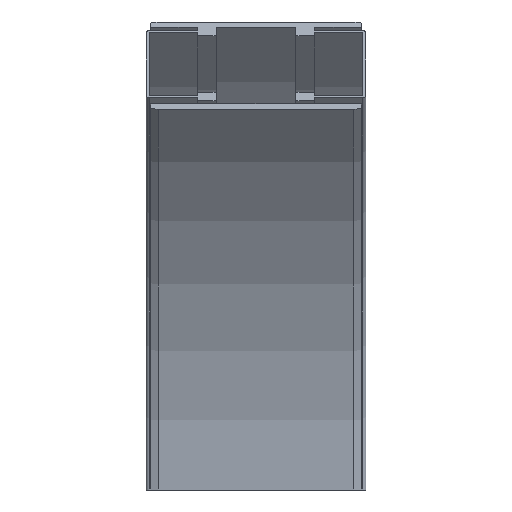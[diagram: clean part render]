
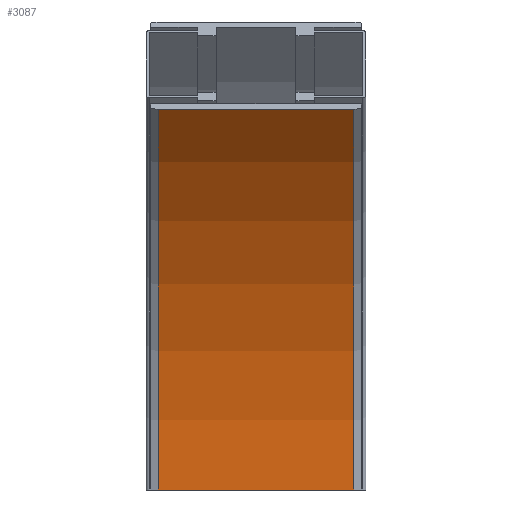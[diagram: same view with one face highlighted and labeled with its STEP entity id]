
A CAD part, front view. The second image highlights one B-rep face of the part: STEP entity #3087.
In plain terms, the highlighted cylindrical face has radius 357.5 mm (diameter 715 mm), a partial arc.
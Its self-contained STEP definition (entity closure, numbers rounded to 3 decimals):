
#3029=CARTESIAN_POINT('',(104.,-178.709,252.791));
#3030=VERTEX_POINT('',#3029);
#3037=CARTESIAN_POINT('',(104.,-74.,0.0));
#3038=VERTEX_POINT('',#3037);
#3039=CARTESIAN_POINT('',(104.,-431.5,0.));
#3040=DIRECTION('',(1.0,0.0,0.0));
#3041=DIRECTION('',(0.0,1.0,0.0));
#3042=AXIS2_PLACEMENT_3D('',#3039,#3040,#3041);
#3043=CIRCLE('',#3042,357.5);
#3044=EDGE_CURVE('',#3038,#3030,#3043,.T.);
#3056=CARTESIAN_POINT('',(39.,-431.5,0.));
#3057=DIRECTION('',(1.0,0.0,0.0));
#3058=DIRECTION('',(0.0,1.0,0.0));
#3059=AXIS2_PLACEMENT_3D('',#3056,#3057,#3058);
#3060=CYLINDRICAL_SURFACE('',#3059,357.5);
#3061=CARTESIAN_POINT('',(-26.,-178.709,252.791));
#3062=VERTEX_POINT('',#3061);
#3063=CARTESIAN_POINT('',(104.0,-178.709,252.791));
#3064=DIRECTION('',(-1.0,0.0,0.0));
#3065=VECTOR('',#3064,130.);
#3066=LINE('',#3063,#3065);
#3067=EDGE_CURVE('',#3030,#3062,#3066,.T.);
#3068=ORIENTED_EDGE('',*,*,#3067,.T.);
#3069=CARTESIAN_POINT('',(-26.,-74.,0.0));
#3070=VERTEX_POINT('',#3069);
#3071=CARTESIAN_POINT('',(-26.,-431.5,0.));
#3072=DIRECTION('',(1.0,0.0,0.0));
#3073=DIRECTION('',(0.0,1.0,0.0));
#3074=AXIS2_PLACEMENT_3D('',#3071,#3072,#3073);
#3075=CIRCLE('',#3074,357.5);
#3076=EDGE_CURVE('',#3070,#3062,#3075,.T.);
#3077=ORIENTED_EDGE('',*,*,#3076,.F.);
#3078=CARTESIAN_POINT('',(-26.,-74.,0.0));
#3079=DIRECTION('',(1.0,0.0,0.0));
#3080=VECTOR('',#3079,130.);
#3081=LINE('',#3078,#3080);
#3082=EDGE_CURVE('',#3070,#3038,#3081,.T.);
#3083=ORIENTED_EDGE('',*,*,#3082,.T.);
#3084=ORIENTED_EDGE('',*,*,#3044,.T.);
#3085=EDGE_LOOP('',(#3068,#3077,#3083,#3084));
#3086=FACE_OUTER_BOUND('',#3085,.T.);
#3087=ADVANCED_FACE('',(#3086),#3060,.F.);
